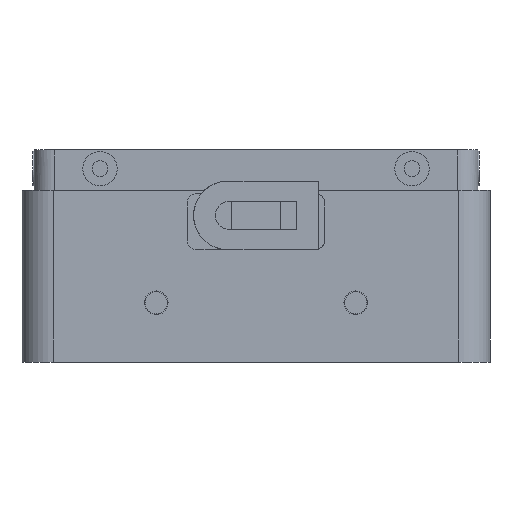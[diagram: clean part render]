
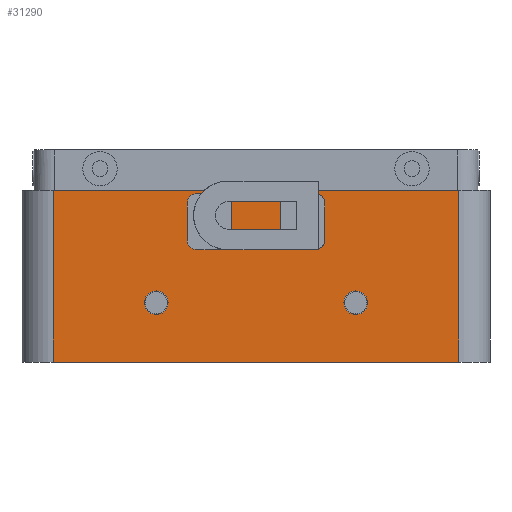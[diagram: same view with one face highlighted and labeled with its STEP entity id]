
A CAD part, left-side view. The second image highlights one B-rep face of the part: STEP entity #31290.
In plain terms, the highlighted planar face has unit normal (-1, 0, 0).
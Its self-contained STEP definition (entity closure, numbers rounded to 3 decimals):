
#30502=CARTESIAN_POINT('Vertex',(-94.,22.,51.)) ;
#30505=CARTESIAN_POINT('Line Origine',(-94.,22.,45.)) ;
#30509=CARTESIAN_POINT('Vertex',(-94.,22.,39.)) ;
#30531=CARTESIAN_POINT('Axis2P3D Location',(-94.,19.,39.)) ;
#30535=CARTESIAN_POINT('Vertex',(-94.,19.,36.)) ;
#30557=CARTESIAN_POINT('Line Origine',(-94.,15.,36.)) ;
#30561=CARTESIAN_POINT('Vertex',(-94.,11.,36.)) ;
#30580=CARTESIAN_POINT('Vertex',(-94.,35.8,19.)) ;
#30583=CARTESIAN_POINT('Axis2P3D Location',(-94.,32.,19.)) ;
#30587=CARTESIAN_POINT('Vertex',(-94.,28.2,19.)) ;
#30602=CARTESIAN_POINT('Axis2P3D Location',(-94.,32.,19.)) ;
#30618=CARTESIAN_POINT('Vertex',(-94.,-28.2,19.)) ;
#30621=CARTESIAN_POINT('Axis2P3D Location',(-94.,-32.,19.)) ;
#30625=CARTESIAN_POINT('Vertex',(-94.,-35.8,19.)) ;
#30640=CARTESIAN_POINT('Axis2P3D Location',(-94.,-32.,19.)) ;
#30656=CARTESIAN_POINT('Vertex',(-94.,65.,55.)) ;
#30659=CARTESIAN_POINT('Line Origine',(-94.,0.,55.)) ;
#30663=CARTESIAN_POINT('Vertex',(-94.,-65.,55.)) ;
#30719=CARTESIAN_POINT('Line Origine',(-94.,-65.,27.5)) ;
#30723=CARTESIAN_POINT('Vertex',(-94.,-65.,0.)) ;
#30743=CARTESIAN_POINT('Line Origine',(-94.,0.,0.)) ;
#30747=CARTESIAN_POINT('Vertex',(-94.,65.,0.)) ;
#30877=CARTESIAN_POINT('Line Origine',(-94.,65.,27.5)) ;
#30903=CARTESIAN_POINT('Axis2P3D Location',(-94.,11.,39.)) ;
#30907=CARTESIAN_POINT('Vertex',(-94.,8.,39.)) ;
#30934=CARTESIAN_POINT('Vertex',(-94.,19.,54.)) ;
#30937=CARTESIAN_POINT('Axis2P3D Location',(-94.,19.,51.)) ;
#30963=CARTESIAN_POINT('Line Origine',(-94.,8.,45.)) ;
#30967=CARTESIAN_POINT('Vertex',(-94.,8.,51.)) ;
#31076=CARTESIAN_POINT('Vertex',(-94.,-8.,51.)) ;
#31079=CARTESIAN_POINT('Line Origine',(-94.,-8.,45.)) ;
#31083=CARTESIAN_POINT('Vertex',(-94.,-8.,39.)) ;
#31192=CARTESIAN_POINT('Axis2P3D Location',(-94.,65.,0.)) ;
#31211=CARTESIAN_POINT('Axis2P3D Location',(-94.,-19.,39.)) ;
#31215=CARTESIAN_POINT('Vertex',(-94.,-22.,39.)) ;
#31217=CARTESIAN_POINT('Vertex',(-94.,-19.,36.)) ;
#31220=CARTESIAN_POINT('Line Origine',(-94.,-15.,36.)) ;
#31224=CARTESIAN_POINT('Vertex',(-94.,-11.,36.)) ;
#31227=CARTESIAN_POINT('Axis2P3D Location',(-94.,-11.,39.)) ;
#31232=CARTESIAN_POINT('Axis2P3D Location',(-94.,-11.,51.)) ;
#31236=CARTESIAN_POINT('Vertex',(-94.,-11.,54.)) ;
#31239=CARTESIAN_POINT('Line Origine',(-94.,-15.,54.)) ;
#31243=CARTESIAN_POINT('Vertex',(-94.,-19.,54.)) ;
#31246=CARTESIAN_POINT('Axis2P3D Location',(-94.,-19.,51.)) ;
#31250=CARTESIAN_POINT('Vertex',(-94.,-22.,51.)) ;
#31253=CARTESIAN_POINT('Line Origine',(-94.,-22.,45.)) ;
#31268=CARTESIAN_POINT('Line Origine',(-94.,15.,54.)) ;
#31272=CARTESIAN_POINT('Vertex',(-94.,11.,54.)) ;
#31275=CARTESIAN_POINT('Axis2P3D Location',(-94.,11.,51.)) ;
#30507=VECTOR('Line Direction',#30506,1.) ;
#30559=VECTOR('Line Direction',#30558,1.) ;
#30661=VECTOR('Line Direction',#30660,1.) ;
#30721=VECTOR('Line Direction',#30720,1.) ;
#30745=VECTOR('Line Direction',#30744,1.) ;
#30879=VECTOR('Line Direction',#30878,1.) ;
#30965=VECTOR('Line Direction',#30964,1.) ;
#31081=VECTOR('Line Direction',#31080,1.) ;
#31222=VECTOR('Line Direction',#31221,1.) ;
#31241=VECTOR('Line Direction',#31240,1.) ;
#31255=VECTOR('Line Direction',#31254,1.) ;
#31270=VECTOR('Line Direction',#31269,1.) ;
#30506=DIRECTION('Vector Direction',(0.,0.,1.)) ;
#30532=DIRECTION('Axis2P3D Direction',(1.,0.,0.)) ;
#30558=DIRECTION('Vector Direction',(0.,1.,0.)) ;
#30584=DIRECTION('Axis2P3D Direction',(1.,0.,0.)) ;
#30603=DIRECTION('Axis2P3D Direction',(1.,0.,0.)) ;
#30622=DIRECTION('Axis2P3D Direction',(1.,0.,0.)) ;
#30641=DIRECTION('Axis2P3D Direction',(1.,0.,0.)) ;
#30660=DIRECTION('Vector Direction',(0.,-1.,0.)) ;
#30720=DIRECTION('Vector Direction',(0.,0.,1.)) ;
#30744=DIRECTION('Vector Direction',(0.,-1.,0.)) ;
#30878=DIRECTION('Vector Direction',(0.,0.,1.)) ;
#30904=DIRECTION('Axis2P3D Direction',(1.,0.,0.)) ;
#30938=DIRECTION('Axis2P3D Direction',(1.,0.,0.)) ;
#30964=DIRECTION('Vector Direction',(0.,0.,-1.)) ;
#31080=DIRECTION('Vector Direction',(0.,0.,1.)) ;
#31193=DIRECTION('Axis2P3D Direction',(-1.,0.,0.)) ;
#31194=DIRECTION('Axis2P3D XDirection',(0.,-1.,0.)) ;
#31212=DIRECTION('Axis2P3D Direction',(-1.,0.,0.)) ;
#31221=DIRECTION('Vector Direction',(0.,1.,0.)) ;
#31228=DIRECTION('Axis2P3D Direction',(-1.,0.,0.)) ;
#31233=DIRECTION('Axis2P3D Direction',(-1.,0.,0.)) ;
#31240=DIRECTION('Vector Direction',(0.,-1.,0.)) ;
#31247=DIRECTION('Axis2P3D Direction',(-1.,0.,0.)) ;
#31254=DIRECTION('Vector Direction',(0.,0.,-1.)) ;
#31269=DIRECTION('Vector Direction',(0.,-1.,0.)) ;
#31276=DIRECTION('Axis2P3D Direction',(-1.,0.,0.)) ;
#30533=AXIS2_PLACEMENT_3D('Circle Axis2P3D',#30531,#30532,$) ;
#30585=AXIS2_PLACEMENT_3D('Circle Axis2P3D',#30583,#30584,$) ;
#30604=AXIS2_PLACEMENT_3D('Circle Axis2P3D',#30602,#30603,$) ;
#30623=AXIS2_PLACEMENT_3D('Circle Axis2P3D',#30621,#30622,$) ;
#30642=AXIS2_PLACEMENT_3D('Circle Axis2P3D',#30640,#30641,$) ;
#30905=AXIS2_PLACEMENT_3D('Circle Axis2P3D',#30903,#30904,$) ;
#30939=AXIS2_PLACEMENT_3D('Circle Axis2P3D',#30937,#30938,$) ;
#31195=AXIS2_PLACEMENT_3D('Plane Axis2P3D',#31192,#31193,#31194) ;
#31213=AXIS2_PLACEMENT_3D('Circle Axis2P3D',#31211,#31212,$) ;
#31229=AXIS2_PLACEMENT_3D('Circle Axis2P3D',#31227,#31228,$) ;
#31234=AXIS2_PLACEMENT_3D('Circle Axis2P3D',#31232,#31233,$) ;
#31248=AXIS2_PLACEMENT_3D('Circle Axis2P3D',#31246,#31247,$) ;
#31277=AXIS2_PLACEMENT_3D('Circle Axis2P3D',#31275,#31276,$) ;
#30508=LINE('Line',#30505,#30507) ;
#30560=LINE('Line',#30557,#30559) ;
#30662=LINE('Line',#30659,#30661) ;
#30722=LINE('Line',#30719,#30721) ;
#30746=LINE('Line',#30743,#30745) ;
#30880=LINE('Line',#30877,#30879) ;
#30966=LINE('Line',#30963,#30965) ;
#31082=LINE('Line',#31079,#31081) ;
#31223=LINE('Line',#31220,#31222) ;
#31242=LINE('Line',#31239,#31241) ;
#31256=LINE('Line',#31253,#31255) ;
#31271=LINE('Line',#31268,#31270) ;
#30534=CIRCLE('generated circle',#30533,3.) ;
#30586=CIRCLE('generated circle',#30585,3.8) ;
#30605=CIRCLE('generated circle',#30604,3.8) ;
#30624=CIRCLE('generated circle',#30623,3.8) ;
#30643=CIRCLE('generated circle',#30642,3.8) ;
#30906=CIRCLE('generated circle',#30905,3.) ;
#30940=CIRCLE('generated circle',#30939,3.) ;
#31214=CIRCLE('generated circle',#31213,3.) ;
#31230=CIRCLE('generated circle',#31229,3.) ;
#31235=CIRCLE('generated circle',#31234,3.) ;
#31249=CIRCLE('generated circle',#31248,3.) ;
#31278=CIRCLE('generated circle',#31277,3.) ;
#31196=PLANE('',#31195) ;
#31206=FACE_BOUND('',#31203,.T.) ;
#31210=FACE_BOUND('',#31207,.T.) ;
#31267=FACE_BOUND('',#31258,.T.) ;
#31289=FACE_BOUND('',#31280,.T.) ;
#30511=EDGE_CURVE('',#30510,#30503,#30508,.T.) ;
#30537=EDGE_CURVE('',#30536,#30510,#30534,.T.) ;
#30563=EDGE_CURVE('',#30562,#30536,#30560,.T.) ;
#30589=EDGE_CURVE('',#30588,#30581,#30586,.T.) ;
#30606=EDGE_CURVE('',#30581,#30588,#30605,.T.) ;
#30627=EDGE_CURVE('',#30626,#30619,#30624,.T.) ;
#30644=EDGE_CURVE('',#30619,#30626,#30643,.T.) ;
#30665=EDGE_CURVE('',#30657,#30664,#30662,.T.) ;
#30725=EDGE_CURVE('',#30724,#30664,#30722,.T.) ;
#30749=EDGE_CURVE('',#30748,#30724,#30746,.T.) ;
#30881=EDGE_CURVE('',#30748,#30657,#30880,.T.) ;
#30909=EDGE_CURVE('',#30908,#30562,#30906,.T.) ;
#30941=EDGE_CURVE('',#30503,#30935,#30940,.T.) ;
#30969=EDGE_CURVE('',#30968,#30908,#30966,.T.) ;
#31085=EDGE_CURVE('',#31084,#31077,#31082,.T.) ;
#31219=EDGE_CURVE('',#31216,#31218,#31214,.F.) ;
#31226=EDGE_CURVE('',#31218,#31225,#31223,.T.) ;
#31231=EDGE_CURVE('',#31225,#31084,#31230,.F.) ;
#31238=EDGE_CURVE('',#31077,#31237,#31235,.F.) ;
#31245=EDGE_CURVE('',#31237,#31244,#31242,.T.) ;
#31252=EDGE_CURVE('',#31244,#31251,#31249,.F.) ;
#31257=EDGE_CURVE('',#31251,#31216,#31256,.T.) ;
#31274=EDGE_CURVE('',#30935,#31273,#31271,.T.) ;
#31279=EDGE_CURVE('',#31273,#30968,#31278,.F.) ;
#31198=ORIENTED_EDGE('',*,*,#30881,.F.) ;
#31199=ORIENTED_EDGE('',*,*,#30749,.T.) ;
#31200=ORIENTED_EDGE('',*,*,#30725,.T.) ;
#31201=ORIENTED_EDGE('',*,*,#30665,.F.) ;
#31204=ORIENTED_EDGE('',*,*,#30644,.T.) ;
#31205=ORIENTED_EDGE('',*,*,#30627,.T.) ;
#31208=ORIENTED_EDGE('',*,*,#30606,.T.) ;
#31209=ORIENTED_EDGE('',*,*,#30589,.T.) ;
#31259=ORIENTED_EDGE('',*,*,#31219,.T.) ;
#31260=ORIENTED_EDGE('',*,*,#31226,.T.) ;
#31261=ORIENTED_EDGE('',*,*,#31231,.T.) ;
#31262=ORIENTED_EDGE('',*,*,#31085,.T.) ;
#31263=ORIENTED_EDGE('',*,*,#31238,.T.) ;
#31264=ORIENTED_EDGE('',*,*,#31245,.T.) ;
#31265=ORIENTED_EDGE('',*,*,#31252,.T.) ;
#31266=ORIENTED_EDGE('',*,*,#31257,.T.) ;
#31281=ORIENTED_EDGE('',*,*,#30909,.T.) ;
#31282=ORIENTED_EDGE('',*,*,#30563,.T.) ;
#31283=ORIENTED_EDGE('',*,*,#30537,.T.) ;
#31284=ORIENTED_EDGE('',*,*,#30511,.T.) ;
#31285=ORIENTED_EDGE('',*,*,#30941,.T.) ;
#31286=ORIENTED_EDGE('',*,*,#31274,.T.) ;
#31287=ORIENTED_EDGE('',*,*,#31279,.T.) ;
#31288=ORIENTED_EDGE('',*,*,#30969,.T.) ;
#31197=EDGE_LOOP('',(#31198,#31199,#31200,#31201)) ;
#31203=EDGE_LOOP('',(#31204,#31205)) ;
#31207=EDGE_LOOP('',(#31208,#31209)) ;
#31258=EDGE_LOOP('',(#31259,#31260,#31261,#31262,#31263,#31264,#31265,#31266)) ;
#31280=EDGE_LOOP('',(#31281,#31282,#31283,#31284,#31285,#31286,#31287,#31288)) ;
#30503=VERTEX_POINT('',#30502) ;
#30510=VERTEX_POINT('',#30509) ;
#30536=VERTEX_POINT('',#30535) ;
#30562=VERTEX_POINT('',#30561) ;
#30581=VERTEX_POINT('',#30580) ;
#30588=VERTEX_POINT('',#30587) ;
#30619=VERTEX_POINT('',#30618) ;
#30626=VERTEX_POINT('',#30625) ;
#30657=VERTEX_POINT('',#30656) ;
#30664=VERTEX_POINT('',#30663) ;
#30724=VERTEX_POINT('',#30723) ;
#30748=VERTEX_POINT('',#30747) ;
#30908=VERTEX_POINT('',#30907) ;
#30935=VERTEX_POINT('',#30934) ;
#30968=VERTEX_POINT('',#30967) ;
#31077=VERTEX_POINT('',#31076) ;
#31084=VERTEX_POINT('',#31083) ;
#31216=VERTEX_POINT('',#31215) ;
#31218=VERTEX_POINT('',#31217) ;
#31225=VERTEX_POINT('',#31224) ;
#31237=VERTEX_POINT('',#31236) ;
#31244=VERTEX_POINT('',#31243) ;
#31251=VERTEX_POINT('',#31250) ;
#31273=VERTEX_POINT('',#31272) ;
#31290=ADVANCED_FACE('MAIN_HOUSING',(#31202,#31206,#31210,#31267,#31289),#31196,.T.) ;
#31202=FACE_OUTER_BOUND('',#31197,.T.) ;
